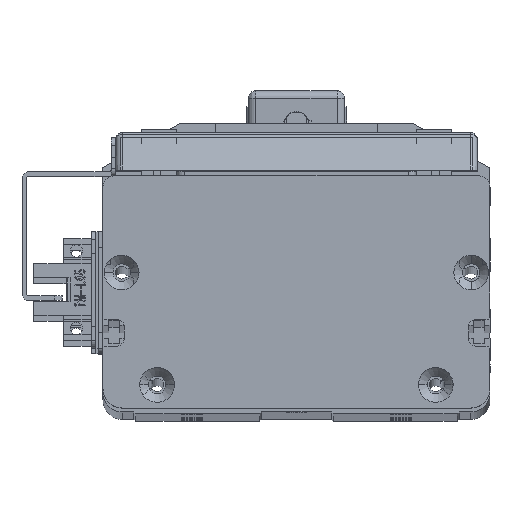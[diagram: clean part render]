
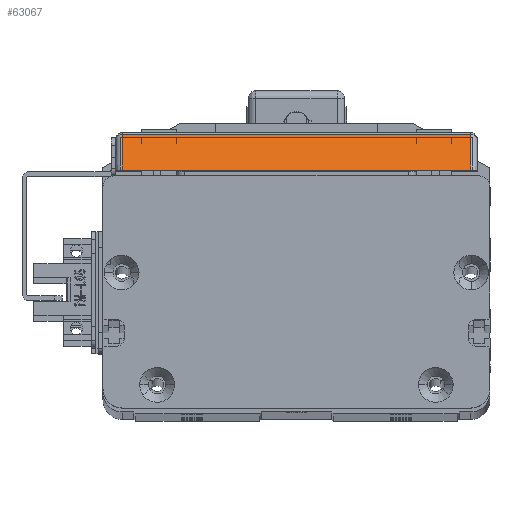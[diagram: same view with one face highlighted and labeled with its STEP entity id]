
A CAD part, top view. The second image highlights one B-rep face of the part: STEP entity #63067.
In plain terms, the highlighted planar face has unit normal (0, 0.707, 0.707) as drawn and (-0.707, 0, -0.707) by its records, which use the part's own axes.
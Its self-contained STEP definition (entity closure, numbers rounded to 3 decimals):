
#792 = CARTESIAN_POINT ( 'NONE',  ( -66.5, 91.7, 4.1 ) ) ;
#1180 = VERTEX_POINT ( 'NONE', #25939 ) ;
#2304 = FACE_OUTER_BOUND ( 'NONE', #47988, .T. ) ;
#2827 = CARTESIAN_POINT ( 'NONE',  ( -68., 93.4, 5.6 ) ) ;
#4038 = VERTEX_POINT ( 'NONE', #49877 ) ;
#7761 = PLANE ( 'NONE',  #61633 ) ;
#11031 = DIRECTION ( 'NONE',  ( 0., -1., 0. ) ) ;
#12208 = LINE ( 'NONE', #61841, #18942 ) ;
#15768 = ORIENTED_EDGE ( 'NONE', *, *, #41842, .T. ) ;
#18942 = VECTOR ( 'NONE', #51757, 1000. ) ;
#23056 = VECTOR ( 'NONE', #61550, 1000. ) ;
#23575 = EDGE_CURVE ( 'NONE', #65052, #64915, #12208, .T. ) ;
#25939 = CARTESIAN_POINT ( 'NONE',  ( -57.298, 1.7, -5.102 ) ) ;
#26417 = LINE ( 'NONE', #58719, #47566 ) ;
#34876 = DIRECTION ( 'NONE',  ( -0.707, 0., -0.707 ) ) ;
#37273 = DIRECTION ( 'NONE',  ( -0.707, 0., 0.707 ) ) ;
#37771 = VECTOR ( 'NONE', #11031, 1000. ) ;
#41842 = EDGE_CURVE ( 'NONE', #64915, #4038, #62731, .T. ) ;
#42412 = EDGE_CURVE ( 'NONE', #1180, #65052, #26417, .T. ) ;
#45516 = DIRECTION ( 'NONE',  ( -0.707, 0., 0.707 ) ) ;
#47566 = VECTOR ( 'NONE', #37273, 1000. ) ;
#47988 = EDGE_LOOP ( 'NONE', ( #63599, #55231, #15768, #63623 ) ) ;
#49877 = CARTESIAN_POINT ( 'NONE',  ( -57.298, 91.7, -5.102 ) ) ;
#50959 = EDGE_CURVE ( 'NONE', #4038, #1180, #64745, .T. ) ;
#51757 = DIRECTION ( 'NONE',  ( 0., 1., 0. ) ) ;
#53737 = CARTESIAN_POINT ( 'NONE',  ( -57.298, 93.4, -5.102 ) ) ;
#55231 = ORIENTED_EDGE ( 'NONE', *, *, #23575, .T. ) ;
#56605 = CARTESIAN_POINT ( 'NONE',  ( -66.5, 1.7, 4.1 ) ) ;
#58719 = CARTESIAN_POINT ( 'NONE',  ( -68., 1.7, 5.6 ) ) ;
#61550 = DIRECTION ( 'NONE',  ( 0.707, 0., -0.707 ) ) ;
#61633 = AXIS2_PLACEMENT_3D ( 'NONE', #2827, #34876, #45516 ) ;
#61841 = CARTESIAN_POINT ( 'NONE',  ( -66.5, 93.4, 4.1 ) ) ;
#62731 = LINE ( 'NONE', #66508, #23056 ) ;
#63067 = ADVANCED_FACE ( 'NONE', ( #2304 ), #7761, .T. ) ;
#63599 = ORIENTED_EDGE ( 'NONE', *, *, #42412, .T. ) ;
#63623 = ORIENTED_EDGE ( 'NONE', *, *, #50959, .T. ) ;
#64745 = LINE ( 'NONE', #53737, #37771 ) ;
#64915 = VERTEX_POINT ( 'NONE', #792 ) ;
#65052 = VERTEX_POINT ( 'NONE', #56605 ) ;
#66508 = CARTESIAN_POINT ( 'NONE',  ( -68., 91.7, 5.6 ) ) ;
